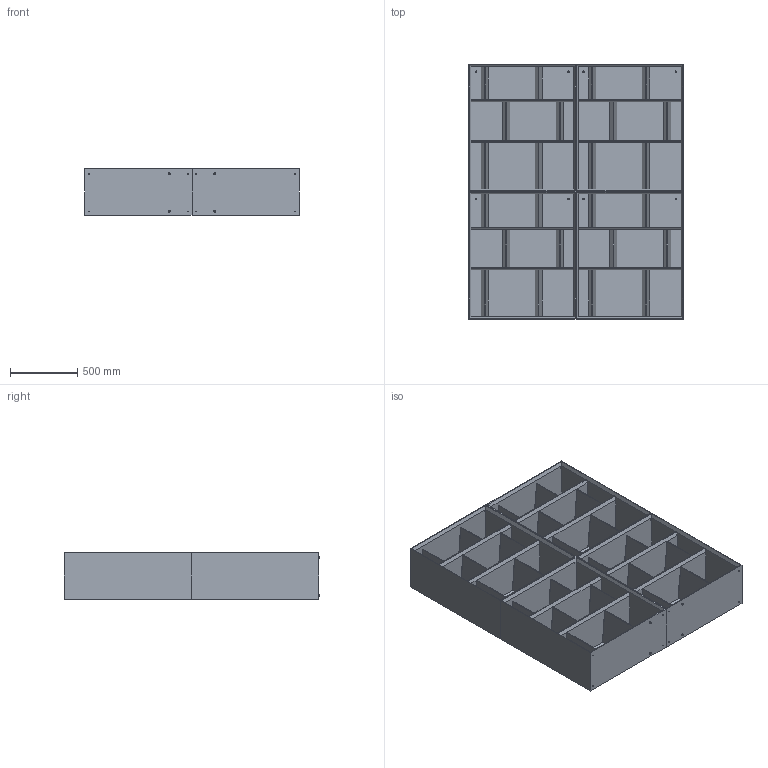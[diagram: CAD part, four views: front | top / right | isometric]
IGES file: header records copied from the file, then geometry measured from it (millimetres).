
Start section: SolidWorks IGES file using analytic representation for surfaces
Global section: file name: Y:\eforma\TECNICO\SOLIDWORKS\E-FORMA\08-LIBRERIE\LIBRERIA BENDY\02 parts\BL13S_Bendy Ax4_160x35x190h.IGS; native system: SolidWorks 2022; preprocessor: SolidWorks 2022; author: eforma.tech; date: 240806.103031; units: millimetre
Bounding box: 1600 x 1907 x 350 mm (x, y, z)
Volume: 148834946 mm3; surface area: 28378440.8 mm2
Topology: 60 solids, 60 shells, 1440 faces, 3448 edges, 2120 vertices
Faces by surface type: plane 896, revolution 544
